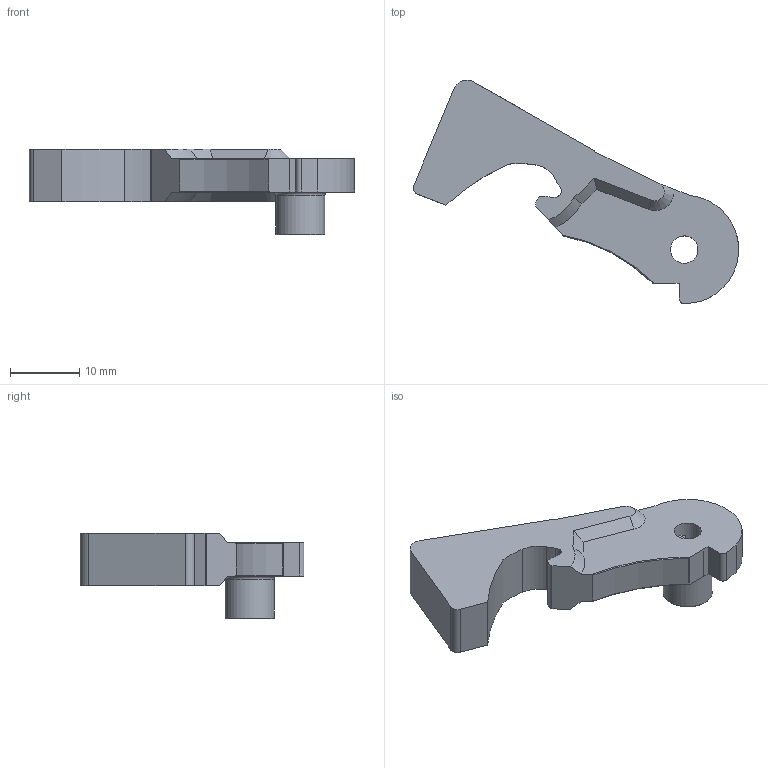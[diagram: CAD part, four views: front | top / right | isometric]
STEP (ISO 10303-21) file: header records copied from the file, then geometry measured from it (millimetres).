
FILE_DESCRIPTION(/* description */ (''),/* implementation_level */ '2;1');
FILE_NAME(/* name */ 'D:\~~GatCad\Ivan''s Printable Fire Control Group (AR15, FGC-9, etc)\CSGCG 3D Printable Fire Control Group\STEP\FGC-9 Hammer V1.0.stp',/* time_stamp */ '2021-03-12T14:47:06-06:00',/* author */ ('johne'),/* organization */ (''),/* preprocessor_version */ 'ST-DEVELOPER v18',/* originating_system */ 'Autodesk Inventor 2020',/* authorisation */ '');
FILE_SCHEMA (('AUTOMOTIVE_DESIGN { 1 0 10303 214 3 1 1 }'));
Length unit declared in the file: millimetre
Products named in the file (1): Standard Hammer V1.1
Bounding box: 47.08 x 32.4 x 12.45 mm (x, y, z)
Volume: 3521.9 mm3; surface area: 2507.1 mm2
Topology: 1 solids, 1 shells, 63 faces, 167 edges, 109 vertices
Faces by surface type: cylinder 24, plane 22, torus 7, cone 6, bspline 4
Full cylindrical faces by diameter (mm): 0.813 x1, 3.9 x1, 3.962 x1, 7.112 x1, 7.366 x1
Entity records: 2257 total; most frequent: CARTESIAN_POINT 603, DIRECTION 350, ORIENTED_EDGE 334, EDGE_CURVE 167, AXIS2_PLACEMENT_3D 139, VERTEX_POINT 109, CIRCLE 73, LINE 72
